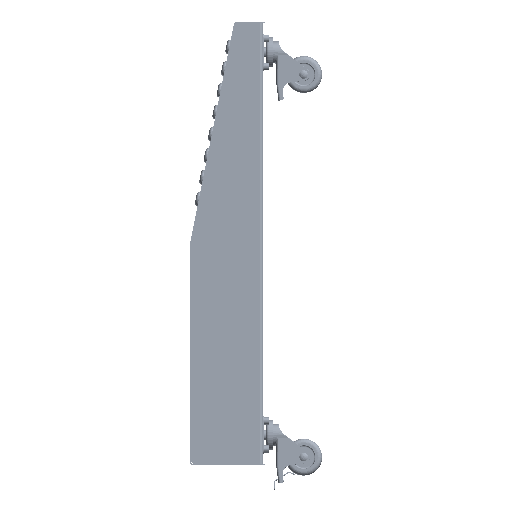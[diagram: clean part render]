
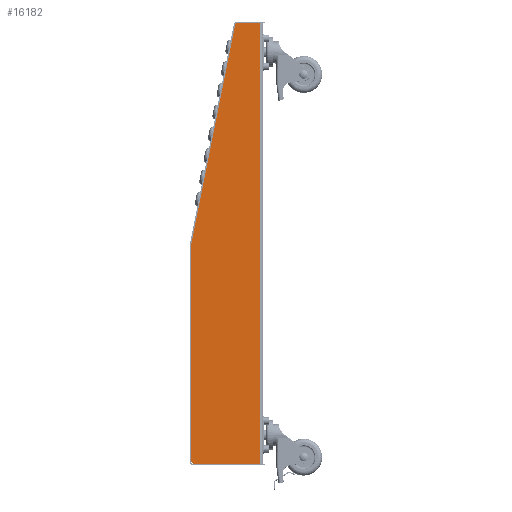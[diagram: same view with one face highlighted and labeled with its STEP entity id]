
A CAD part, left-side view. The second image highlights one B-rep face of the part: STEP entity #16182.
In plain terms, the highlighted planar face has unit normal (-1, 0, 0).
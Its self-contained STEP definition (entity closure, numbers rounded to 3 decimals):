
#529 = VERTEX_POINT ( 'NONE', #29059 ) ;
#761 = DIRECTION ( 'NONE',  ( 0., 0., -1. ) ) ;
#1049 = FACE_OUTER_BOUND ( 'NONE', #3764, .T. ) ;
#3764 = EDGE_LOOP ( 'NONE', ( #86838, #38505, #4761, #55345, #23746, #55094, #7311, #60017 ) ) ;
#4761 = ORIENTED_EDGE ( 'NONE', *, *, #91220, .T. ) ;
#7311 = ORIENTED_EDGE ( 'NONE', *, *, #89256, .T. ) ;
#8657 = LINE ( 'NONE', #98998, #87261 ) ;
#12102 = VECTOR ( 'NONE', #32016, 1000. ) ;
#12777 = DIRECTION ( 'NONE',  ( 0., -1., 0. ) ) ;
#14050 = CARTESIAN_POINT ( 'NONE',  ( -359.037, -47.861, 910. ) ) ;
#16182 = ADVANCED_FACE ( 'NONE', ( #1049 ), #88026, .F. ) ;
#20260 = DIRECTION ( 'NONE',  ( -1., 0., 0. ) ) ;
#21537 = VECTOR ( 'NONE', #83607, 1000. ) ;
#21870 = DIRECTION ( 'NONE',  ( 0., -1., 0. ) ) ;
#23746 = ORIENTED_EDGE ( 'NONE', *, *, #75295, .T. ) ;
#27556 = CARTESIAN_POINT ( 'NONE',  ( -359.037, -52.361, 910. ) ) ;
#29059 = CARTESIAN_POINT ( 'NONE',  ( -359.037, 40.639, 314. ) ) ;
#29509 = CARTESIAN_POINT ( 'NONE',  ( -359.037, 44.639, 611.653 ) ) ;
#29585 = VERTEX_POINT ( 'NONE', #54374 ) ;
#30626 = CARTESIAN_POINT ( 'NONE',  ( -359.037, 40.639, 318. ) ) ;
#32016 = DIRECTION ( 'NONE',  ( 0., 0.196, -0.981 ) ) ;
#33785 = AXIS2_PLACEMENT_3D ( 'NONE', #110512, #74851, #21870 ) ;
#36453 = EDGE_CURVE ( 'NONE', #109121, #29585, #52217, .T. ) ;
#36757 = CARTESIAN_POINT ( 'NONE',  ( -359.037, 44.639, 318. ) ) ;
#37446 = AXIS2_PLACEMENT_3D ( 'NONE', #72103, #20260, #63480 ) ;
#38505 = ORIENTED_EDGE ( 'NONE', *, *, #66073, .T. ) ;
#39864 = CARTESIAN_POINT ( 'NONE',  ( -359.037, 44.639, 314. ) ) ;
#49814 = LINE ( 'NONE', #84888, #74301 ) ;
#51622 = CARTESIAN_POINT ( 'NONE',  ( -359.037, -16.438, 917.185 ) ) ;
#52217 = CIRCLE ( 'NONE', #37446, 1.5 ) ;
#54374 = CARTESIAN_POINT ( 'NONE',  ( -359.037, -14.76, 908.794 ) ) ;
#55094 = ORIENTED_EDGE ( 'NONE', *, *, #36453, .T. ) ;
#55121 = CARTESIAN_POINT ( 'NONE',  ( -359.037, 44.61, 611.948 ) ) ;
#55345 = ORIENTED_EDGE ( 'NONE', *, *, #60295, .F. ) ;
#56172 = CARTESIAN_POINT ( 'NONE',  ( -359.037, -47.861, 314. ) ) ;
#59873 = EDGE_CURVE ( 'NONE', #63033, #74097, #72416, .T. ) ;
#60017 = ORIENTED_EDGE ( 'NONE', *, *, #59873, .T. ) ;
#60295 = EDGE_CURVE ( 'NONE', #112540, #72445, #49814, .T. ) ;
#61143 = VERTEX_POINT ( 'NONE', #36757 ) ;
#63033 = VERTEX_POINT ( 'NONE', #55121 ) ;
#63480 = DIRECTION ( 'NONE',  ( 0., -1., 0. ) ) ;
#64057 = LINE ( 'NONE', #100324, #111539 ) ;
#66073 = EDGE_CURVE ( 'NONE', #61143, #529, #66870, .T. ) ;
#66870 = CIRCLE ( 'NONE', #85193, 4. ) ;
#67075 = AXIS2_PLACEMENT_3D ( 'NONE', #27556, #72442, #97784 ) ;
#71395 = DIRECTION ( 'NONE',  ( 0., 1., 0. ) ) ;
#72103 = CARTESIAN_POINT ( 'NONE',  ( -359.037, -16.231, 908.5 ) ) ;
#72416 = CIRCLE ( 'NONE', #33785, 1.5 ) ;
#72442 = DIRECTION ( 'NONE',  ( 1., 0., 0. ) ) ;
#72445 = VERTEX_POINT ( 'NONE', #56172 ) ;
#74097 = VERTEX_POINT ( 'NONE', #29509 ) ;
#74301 = VECTOR ( 'NONE', #761, 1000. ) ;
#74851 = DIRECTION ( 'NONE',  ( -1., 0., 0. ) ) ;
#75295 = EDGE_CURVE ( 'NONE', #112540, #109121, #8657, .T. ) ;
#83607 = DIRECTION ( 'NONE',  ( 0., 0., -1. ) ) ;
#84888 = CARTESIAN_POINT ( 'NONE',  ( -359.037, -47.861, 910. ) ) ;
#85193 = AXIS2_PLACEMENT_3D ( 'NONE', #30626, #99155, #12777 ) ;
#86838 = ORIENTED_EDGE ( 'NONE', *, *, #113694, .T. ) ;
#87261 = VECTOR ( 'NONE', #71395, 1000. ) ;
#88026 = PLANE ( 'NONE',  #67075 ) ;
#89256 = EDGE_CURVE ( 'NONE', #29585, #63033, #101693, .T. ) ;
#91220 = EDGE_CURVE ( 'NONE', #529, #72445, #64057, .T. ) ;
#97601 = CARTESIAN_POINT ( 'NONE',  ( -359.037, -16.231, 910. ) ) ;
#97784 = DIRECTION ( 'NONE',  ( 0., -1., 0. ) ) ;
#98998 = CARTESIAN_POINT ( 'NONE',  ( -359.037, 44.639, 910. ) ) ;
#99155 = DIRECTION ( 'NONE',  ( -1., 0., 0. ) ) ;
#99171 = DIRECTION ( 'NONE',  ( 0., -1., 0. ) ) ;
#100324 = CARTESIAN_POINT ( 'NONE',  ( -359.037, -49.361, 314. ) ) ;
#100901 = LINE ( 'NONE', #39864, #21537 ) ;
#101693 = LINE ( 'NONE', #51622, #12102 ) ;
#109121 = VERTEX_POINT ( 'NONE', #97601 ) ;
#110512 = CARTESIAN_POINT ( 'NONE',  ( -359.037, 43.139, 611.653 ) ) ;
#111539 = VECTOR ( 'NONE', #99171, 1000. ) ;
#112540 = VERTEX_POINT ( 'NONE', #14050 ) ;
#113694 = EDGE_CURVE ( 'NONE', #74097, #61143, #100901, .T. ) ;
